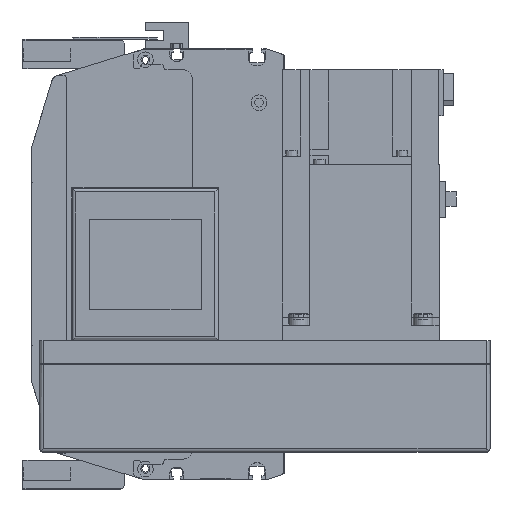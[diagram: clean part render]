
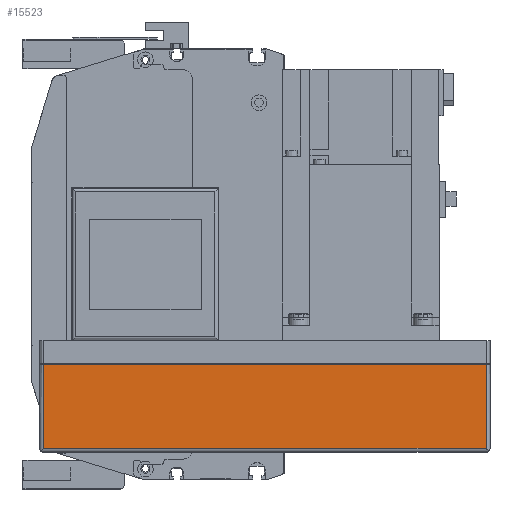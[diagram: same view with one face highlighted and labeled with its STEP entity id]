
A CAD part, left-side view. The second image highlights one B-rep face of the part: STEP entity #15523.
In plain terms, the highlighted planar face has unit normal (-1, 0, 0) as drawn and (0, 1, 0) by its records, which use the part's own axes.
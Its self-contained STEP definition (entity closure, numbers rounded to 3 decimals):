
#2628=ORIENTED_EDGE('',*,*,#6310,.F.);
#2629=ORIENTED_EDGE('',*,*,#6250,.T.);
#2630=ORIENTED_EDGE('',*,*,#6311,.F.);
#2631=ORIENTED_EDGE('',*,*,#6245,.F.);
#6245=EDGE_CURVE('',#8232,#8233,#9838,.T.);
#6250=EDGE_CURVE('',#8238,#8237,#9840,.T.);
#6310=EDGE_CURVE('',#8238,#8232,#9883,.T.);
#6311=EDGE_CURVE('',#8233,#8237,#9884,.T.);
#8232=VERTEX_POINT('',#24191);
#8233=VERTEX_POINT('',#24193);
#8237=VERTEX_POINT('',#24202);
#8238=VERTEX_POINT('',#24204);
#9838=LINE('',#24192,#11197);
#9840=LINE('',#24203,#11199);
#9883=LINE('',#24326,#11242);
#9884=LINE('',#24327,#11243);
#11197=VECTOR('',#19298,1000.);
#11199=VECTOR('',#19308,1000.);
#11242=VECTOR('',#19429,1000.);
#11243=VECTOR('',#19430,1000.);
#12410=EDGE_LOOP('',(#2628,#2629,#2630,#2631));
#13721=FACE_BOUND('',#12410,.T.);
#14870=PLANE('',#16671);
#15523=ADVANCED_FACE('',(#13721),#14870,.T.);
#16671=AXIS2_PLACEMENT_3D('',#24325,#19427,#19428);
#19298=DIRECTION('',(0.,0.,1.));
#19308=DIRECTION('',(0.,0.,1.));
#19427=DIRECTION('',(0.,1.,0.));
#19428=DIRECTION('',(0.,0.,1.));
#19429=DIRECTION('',(1.,0.,0.));
#19430=DIRECTION('',(-1.,0.,0.));
#24191=CARTESIAN_POINT('',(-2.,54.,-55.));
#24192=CARTESIAN_POINT('',(-2.,54.,-57.));
#24193=CARTESIAN_POINT('',(-2.,54.,-12.));
#24202=CARTESIAN_POINT('',(-228.,54.,-12.));
#24203=CARTESIAN_POINT('',(-228.,54.,-57.));
#24204=CARTESIAN_POINT('',(-228.,54.,-55.));
#24325=CARTESIAN_POINT('',(-2.,54.,-57.));
#24326=CARTESIAN_POINT('',(-230.,54.,-55.));
#24327=CARTESIAN_POINT('',(-2.,54.,-12.));
